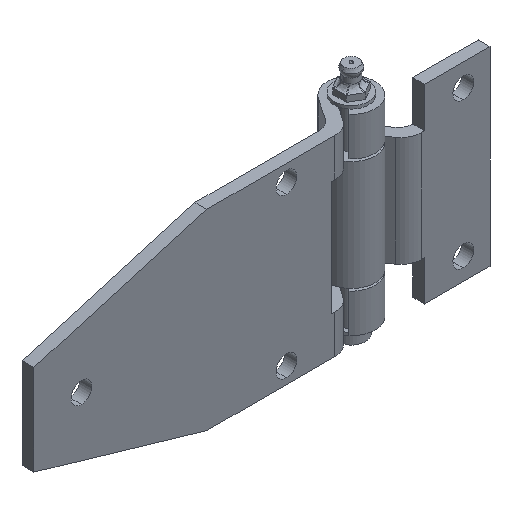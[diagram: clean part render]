
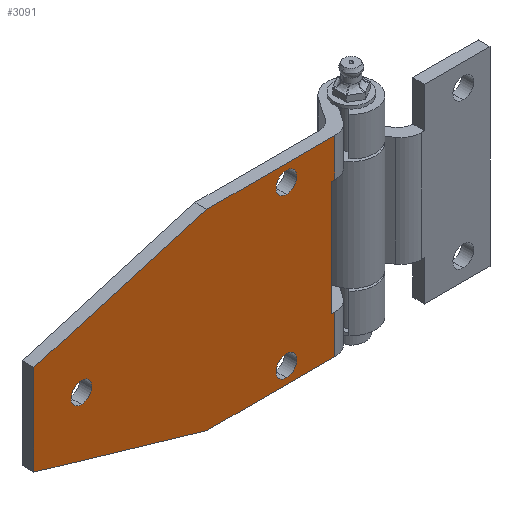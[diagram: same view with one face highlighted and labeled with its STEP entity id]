
A CAD part, isometric view. The second image highlights one B-rep face of the part: STEP entity #3091.
In plain terms, the highlighted planar face has unit normal (0, -1, 0).
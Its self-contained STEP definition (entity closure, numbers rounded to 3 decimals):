
#42 = CARTESIAN_POINT ( 'NONE',  ( 66.571, 3.107, -32.25 ) ) ;
#79 = FACE_BOUND ( 'NONE', #810, .T. ) ;
#85 = DIRECTION ( 'NONE',  ( 0., -1., 0. ) ) ;
#89 = LINE ( 'NONE', #3286, #1744 ) ;
#106 = DIRECTION ( 'NONE',  ( 0., 0., 1. ) ) ;
#110 = AXIS2_PLACEMENT_3D ( 'NONE', #3080, #2188, #1620 ) ;
#120 = DIRECTION ( 'NONE',  ( 0., -1., 0. ) ) ;
#175 = CARTESIAN_POINT ( 'NONE',  ( 62.842, 3.107, -32.25 ) ) ;
#264 = CIRCLE ( 'NONE', #3554, 3.5 ) ;
#275 = EDGE_CURVE ( 'NONE', #3315, #488, #1631, .T. ) ;
#325 = DIRECTION ( 'NONE',  ( 0., 0., -1. ) ) ;
#339 = ORIENTED_EDGE ( 'NONE', *, *, #2592, .T. ) ;
#362 = EDGE_LOOP ( 'NONE', ( #3452, #2101 ) ) ;
#419 = CIRCLE ( 'NONE', #1024, 3.5 ) ;
#455 = VERTEX_POINT ( 'NONE', #3181 ) ;
#487 = DIRECTION ( 'NONE',  ( 0., 0., -1. ) ) ;
#488 = VERTEX_POINT ( 'NONE', #2949 ) ;
#502 = LINE ( 'NONE', #3629, #1571 ) ;
#515 = CARTESIAN_POINT ( 'NONE',  ( 19.777, 3.107, 32.25 ) ) ;
#537 = EDGE_LOOP ( 'NONE', ( #651, #3428 ) ) ;
#548 = DIRECTION ( 'NONE',  ( 0., 0., -1. ) ) ;
#576 = DIRECTION ( 'NONE',  ( -0.96, 0., 0.28 ) ) ;
#602 = CIRCLE ( 'NONE', #3518, 3.5 ) ;
#633 = DIRECTION ( 'NONE',  ( 0., -1., 0. ) ) ;
#646 = EDGE_CURVE ( 'NONE', #3275, #2794, #89, .T. ) ;
#651 = ORIENTED_EDGE ( 'NONE', *, *, #1110, .F. ) ;
#655 = DIRECTION ( 'NONE',  ( 0., 0., -1. ) ) ;
#667 = EDGE_LOOP ( 'NONE', ( #3149, #339, #767, #1048, #2448, #928, #3096, #1839, #3500, #2921 ) ) ;
#674 = PLANE ( 'NONE',  #3029 ) ;
#684 = VECTOR ( 'NONE', #1428, 1000. ) ;
#720 = VECTOR ( 'NONE', #1317, 1000. ) ;
#753 = VECTOR ( 'NONE', #2187, 1000. ) ;
#767 = ORIENTED_EDGE ( 'NONE', *, *, #1112, .F. ) ;
#810 = EDGE_LOOP ( 'NONE', ( #1897, #2260 ) ) ;
#854 = CARTESIAN_POINT ( 'NONE',  ( 46.571, 3.107, 23.25 ) ) ;
#875 = CARTESIAN_POINT ( 'NONE',  ( 46.571, 3.107, -30.25 ) ) ;
#878 = VERTEX_POINT ( 'NONE', #2992 ) ;
#926 = VERTEX_POINT ( 'NONE', #3320 ) ;
#928 = ORIENTED_EDGE ( 'NONE', *, *, #2100, .F. ) ;
#1003 = VERTEX_POINT ( 'NONE', #2784 ) ;
#1024 = AXIS2_PLACEMENT_3D ( 'NONE', #1718, #2013, #1997 ) ;
#1048 = ORIENTED_EDGE ( 'NONE', *, *, #2763, .F. ) ;
#1110 = EDGE_CURVE ( 'NONE', #1387, #455, #419, .T. ) ;
#1112 = EDGE_CURVE ( 'NONE', #926, #3207, #3176, .T. ) ;
#1163 = LINE ( 'NONE', #3721, #684 ) ;
#1192 = DIRECTION ( 'NONE',  ( -1., 0., 0. ) ) ;
#1199 = CARTESIAN_POINT ( 'NONE',  ( 66.571, 3.107, 32.25 ) ) ;
#1217 = EDGE_CURVE ( 'NONE', #2883, #3426, #2759, .T. ) ;
#1299 = EDGE_CURVE ( 'NONE', #455, #1387, #264, .T. ) ;
#1317 = DIRECTION ( 'NONE',  ( -1., 0., 0. ) ) ;
#1321 = CARTESIAN_POINT ( 'NONE',  ( 61.777, 3.107, 19.25 ) ) ;
#1324 = VECTOR ( 'NONE', #548, 1000. ) ;
#1339 = DIRECTION ( 'NONE',  ( -1., 0., 0. ) ) ;
#1354 = VERTEX_POINT ( 'NONE', #2709 ) ;
#1387 = VERTEX_POINT ( 'NONE', #3666 ) ;
#1409 = EDGE_CURVE ( 'NONE', #1354, #1986, #3681, .T. ) ;
#1428 = DIRECTION ( 'NONE',  ( 1., 0., 0. ) ) ;
#1467 = DIRECTION ( 'NONE',  ( 0., -1., 0. ) ) ;
#1495 = LINE ( 'NONE', #2104, #1671 ) ;
#1513 = DIRECTION ( 'NONE',  ( 0., -1., 0. ) ) ;
#1571 = VECTOR ( 'NONE', #2157, 1000. ) ;
#1620 = DIRECTION ( 'NONE',  ( 0., 0., -1. ) ) ;
#1624 = CARTESIAN_POINT ( 'NONE',  ( 46.571, 3.107, -23.25 ) ) ;
#1631 = LINE ( 'NONE', #1321, #1936 ) ;
#1671 = VECTOR ( 'NONE', #1192, 1000. ) ;
#1718 = CARTESIAN_POINT ( 'NONE',  ( -22.429, 3.107, 0. ) ) ;
#1744 = VECTOR ( 'NONE', #106, 1000. ) ;
#1839 = ORIENTED_EDGE ( 'NONE', *, *, #2423, .F. ) ;
#1866 = AXIS2_PLACEMENT_3D ( 'NONE', #3593, #85, #3284 ) ;
#1897 = ORIENTED_EDGE ( 'NONE', *, *, #1217, .F. ) ;
#1936 = VECTOR ( 'NONE', #487, 1000. ) ;
#1985 = LINE ( 'NONE', #3148, #1324 ) ;
#1986 = VERTEX_POINT ( 'NONE', #3088 ) ;
#1997 = DIRECTION ( 'NONE',  ( 0., 0., -1. ) ) ;
#2005 = VERTEX_POINT ( 'NONE', #3322 ) ;
#2012 = EDGE_CURVE ( 'NONE', #2005, #1986, #2768, .T. ) ;
#2013 = DIRECTION ( 'NONE',  ( 0., -1., 0. ) ) ;
#2100 = EDGE_CURVE ( 'NONE', #488, #2794, #1163, .T. ) ;
#2101 = ORIENTED_EDGE ( 'NONE', *, *, #2695, .F. ) ;
#2104 = CARTESIAN_POINT ( 'NONE',  ( 61.777, 3.107, 19.25 ) ) ;
#2157 = DIRECTION ( 'NONE',  ( 0., 0., 1. ) ) ;
#2175 = CARTESIAN_POINT ( 'NONE',  ( 66.571, 3.107, 32.25 ) ) ;
#2187 = DIRECTION ( 'NONE',  ( 0.96, 0., 0.28 ) ) ;
#2188 = DIRECTION ( 'NONE',  ( 0., -1., 0. ) ) ;
#2222 = CARTESIAN_POINT ( 'NONE',  ( 61.777, 3.107, 19.25 ) ) ;
#2260 = ORIENTED_EDGE ( 'NONE', *, *, #3247, .F. ) ;
#2282 = CARTESIAN_POINT ( 'NONE',  ( 46.571, 3.107, -26.75 ) ) ;
#2400 = FACE_OUTER_BOUND ( 'NONE', #667, .T. ) ;
#2423 = EDGE_CURVE ( 'NONE', #1003, #3315, #1495, .T. ) ;
#2448 = ORIENTED_EDGE ( 'NONE', *, *, #646, .T. ) ;
#2532 = CIRCLE ( 'NONE', #1866, 3.5 ) ;
#2592 = EDGE_CURVE ( 'NONE', #1354, #3207, #1985, .T. ) ;
#2625 = FACE_BOUND ( 'NONE', #537, .T. ) ;
#2646 = EDGE_CURVE ( 'NONE', #878, #3633, #602, .T. ) ;
#2657 = VECTOR ( 'NONE', #576, 1000. ) ;
#2665 = DIRECTION ( 'NONE',  ( 0., 0., -1. ) ) ;
#2690 = CARTESIAN_POINT ( 'NONE',  ( 46.571, 3.107, 26.75 ) ) ;
#2695 = EDGE_CURVE ( 'NONE', #3633, #878, #2532, .T. ) ;
#2709 = CARTESIAN_POINT ( 'NONE',  ( -38.429, 3.107, 15.249 ) ) ;
#2759 = CIRCLE ( 'NONE', #2935, 3.5 ) ;
#2763 = EDGE_CURVE ( 'NONE', #3275, #926, #3236, .T. ) ;
#2768 = LINE ( 'NONE', #2175, #3042 ) ;
#2782 = EDGE_CURVE ( 'NONE', #1003, #2005, #502, .T. ) ;
#2784 = CARTESIAN_POINT ( 'NONE',  ( 62.842, 3.107, 19.25 ) ) ;
#2794 = VERTEX_POINT ( 'NONE', #3650 ) ;
#2799 = CARTESIAN_POINT ( 'NONE',  ( -38.429, 3.107, -15.249 ) ) ;
#2883 = VERTEX_POINT ( 'NONE', #1624 ) ;
#2898 = CIRCLE ( 'NONE', #110, 3.5 ) ;
#2921 = ORIENTED_EDGE ( 'NONE', *, *, #2012, .T. ) ;
#2935 = AXIS2_PLACEMENT_3D ( 'NONE', #2282, #1467, #325 ) ;
#2949 = CARTESIAN_POINT ( 'NONE',  ( 61.777, 3.107, -19.25 ) ) ;
#2950 = DIRECTION ( 'NONE',  ( 0., 0., -1. ) ) ;
#2992 = CARTESIAN_POINT ( 'NONE',  ( 46.571, 3.107, 30.25 ) ) ;
#3029 = AXIS2_PLACEMENT_3D ( 'NONE', #1199, #633, #655 ) ;
#3042 = VECTOR ( 'NONE', #1339, 1000. ) ;
#3080 = CARTESIAN_POINT ( 'NONE',  ( 46.571, 3.107, -26.75 ) ) ;
#3088 = CARTESIAN_POINT ( 'NONE',  ( 19.777, 3.107, 32.25 ) ) ;
#3091 = ADVANCED_FACE ( 'NONE', ( #2625, #79, #3254, #2400 ), #674, .T. ) ;
#3096 = ORIENTED_EDGE ( 'NONE', *, *, #275, .F. ) ;
#3148 = CARTESIAN_POINT ( 'NONE',  ( -38.429, 3.107, 32.25 ) ) ;
#3149 = ORIENTED_EDGE ( 'NONE', *, *, #1409, .F. ) ;
#3176 = LINE ( 'NONE', #3770, #2657 ) ;
#3181 = CARTESIAN_POINT ( 'NONE',  ( -22.429, 3.107, -3.5 ) ) ;
#3207 = VERTEX_POINT ( 'NONE', #2799 ) ;
#3236 = LINE ( 'NONE', #42, #720 ) ;
#3247 = EDGE_CURVE ( 'NONE', #3426, #2883, #2898, .T. ) ;
#3252 = CARTESIAN_POINT ( 'NONE',  ( -22.429, 3.107, 0. ) ) ;
#3254 = FACE_BOUND ( 'NONE', #362, .T. ) ;
#3275 = VERTEX_POINT ( 'NONE', #175 ) ;
#3284 = DIRECTION ( 'NONE',  ( 0., 0., -1. ) ) ;
#3286 = CARTESIAN_POINT ( 'NONE',  ( 62.842, 3.107, 32.25 ) ) ;
#3315 = VERTEX_POINT ( 'NONE', #2222 ) ;
#3320 = CARTESIAN_POINT ( 'NONE',  ( 19.777, 3.107, -32.25 ) ) ;
#3322 = CARTESIAN_POINT ( 'NONE',  ( 62.842, 3.107, 32.25 ) ) ;
#3426 = VERTEX_POINT ( 'NONE', #875 ) ;
#3428 = ORIENTED_EDGE ( 'NONE', *, *, #1299, .F. ) ;
#3452 = ORIENTED_EDGE ( 'NONE', *, *, #2646, .F. ) ;
#3500 = ORIENTED_EDGE ( 'NONE', *, *, #2782, .T. ) ;
#3518 = AXIS2_PLACEMENT_3D ( 'NONE', #2690, #1513, #2950 ) ;
#3554 = AXIS2_PLACEMENT_3D ( 'NONE', #3252, #120, #2665 ) ;
#3593 = CARTESIAN_POINT ( 'NONE',  ( 46.571, 3.107, 26.75 ) ) ;
#3629 = CARTESIAN_POINT ( 'NONE',  ( 62.842, 3.107, 32.25 ) ) ;
#3633 = VERTEX_POINT ( 'NONE', #854 ) ;
#3650 = CARTESIAN_POINT ( 'NONE',  ( 62.842, 3.107, -19.25 ) ) ;
#3666 = CARTESIAN_POINT ( 'NONE',  ( -22.429, 3.107, 3.5 ) ) ;
#3681 = LINE ( 'NONE', #515, #753 ) ;
#3721 = CARTESIAN_POINT ( 'NONE',  ( 61.777, 3.107, -19.25 ) ) ;
#3770 = CARTESIAN_POINT ( 'NONE',  ( -38.429, 3.107, -15.249 ) ) ;
